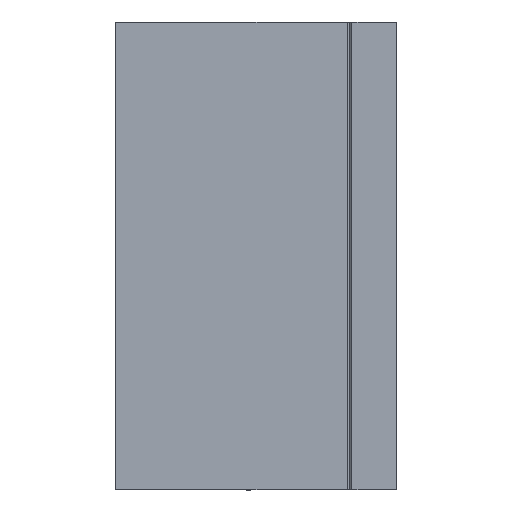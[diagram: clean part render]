
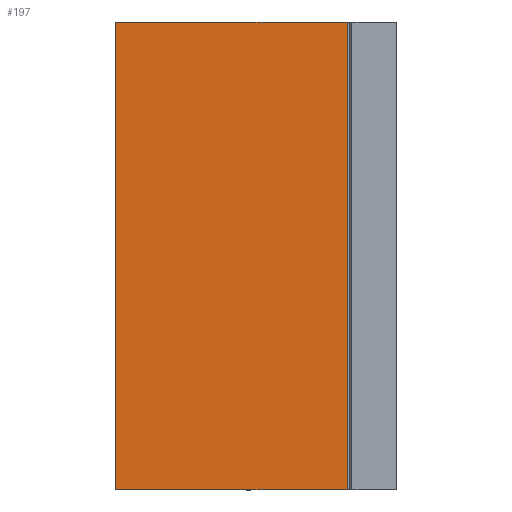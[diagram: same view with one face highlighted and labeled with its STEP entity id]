
A CAD part, front view. The second image highlights one B-rep face of the part: STEP entity #197.
In plain terms, the highlighted planar face has unit normal (0, -1, 0).
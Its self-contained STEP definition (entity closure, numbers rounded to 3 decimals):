
#43 = DIRECTION ( 'NONE',  ( 0., -1., 0. ) ) ;
#76 = DIRECTION ( 'NONE',  ( 0., 0., 1. ) ) ;
#82 = EDGE_CURVE ( 'NONE', #611, #457, #511, .T. ) ;
#105 = CARTESIAN_POINT ( 'NONE',  ( 30., 0., -50. ) ) ;
#113 = DIRECTION ( 'NONE',  ( 0., 0., 1. ) ) ;
#116 = ORIENTED_EDGE ( 'NONE', *, *, #82, .F. ) ;
#124 = PLANE ( 'NONE',  #738 ) ;
#160 = VERTEX_POINT ( 'NONE', #256 ) ;
#187 = FACE_OUTER_BOUND ( 'NONE', #228, .T. ) ;
#197 = ADVANCED_FACE ( 'NONE', ( #187 ), #124, .T. ) ;
#228 = EDGE_LOOP ( 'NONE', ( #116, #679, #568, #637 ) ) ;
#256 = CARTESIAN_POINT ( 'NONE',  ( 19.5, 0., -50. ) ) ;
#322 = CARTESIAN_POINT ( 'NONE',  ( -30., 0., 0. ) ) ;
#334 = EDGE_CURVE ( 'NONE', #160, #693, #781, .T. ) ;
#368 = VECTOR ( 'NONE', #425, 1000. ) ;
#414 = LINE ( 'NONE', #105, #824 ) ;
#425 = DIRECTION ( 'NONE',  ( 1., 0., 0. ) ) ;
#457 = VERTEX_POINT ( 'NONE', #751 ) ;
#460 = CARTESIAN_POINT ( 'NONE',  ( 19.5, 0., 0. ) ) ;
#473 = EDGE_CURVE ( 'NONE', #611, #160, #414, .T. ) ;
#488 = LINE ( 'NONE', #745, #368 ) ;
#511 = LINE ( 'NONE', #322, #653 ) ;
#515 = CARTESIAN_POINT ( 'NONE',  ( 30., 0., 0. ) ) ;
#568 = ORIENTED_EDGE ( 'NONE', *, *, #334, .T. ) ;
#611 = VERTEX_POINT ( 'NONE', #638 ) ;
#637 = ORIENTED_EDGE ( 'NONE', *, *, #807, .F. ) ;
#638 = CARTESIAN_POINT ( 'NONE',  ( -30., 0., -50. ) ) ;
#653 = VECTOR ( 'NONE', #113, 1000. ) ;
#658 = CARTESIAN_POINT ( 'NONE',  ( 19.5, 0., 50. ) ) ;
#679 = ORIENTED_EDGE ( 'NONE', *, *, #473, .T. ) ;
#684 = DIRECTION ( 'NONE',  ( 1., 0., 0. ) ) ;
#693 = VERTEX_POINT ( 'NONE', #658 ) ;
#738 = AXIS2_PLACEMENT_3D ( 'NONE', #515, #43, #769 ) ;
#745 = CARTESIAN_POINT ( 'NONE',  ( -4.098, 0., 50. ) ) ;
#751 = CARTESIAN_POINT ( 'NONE',  ( -30., 0., 50. ) ) ;
#760 = VECTOR ( 'NONE', #76, 1000. ) ;
#769 = DIRECTION ( 'NONE',  ( 0., 0., -1. ) ) ;
#781 = LINE ( 'NONE', #460, #760 ) ;
#807 = EDGE_CURVE ( 'NONE', #457, #693, #488, .T. ) ;
#824 = VECTOR ( 'NONE', #684, 1000. ) ;
